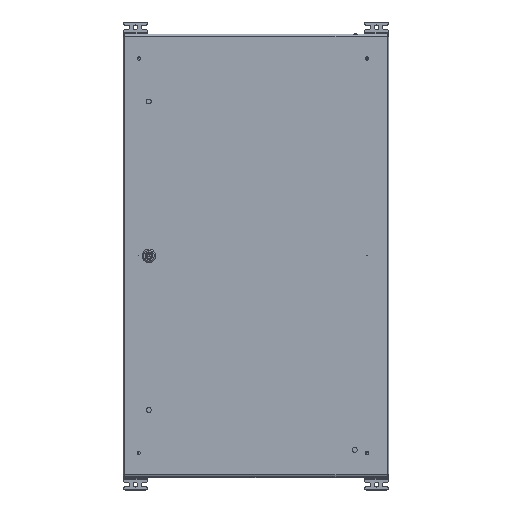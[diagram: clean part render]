
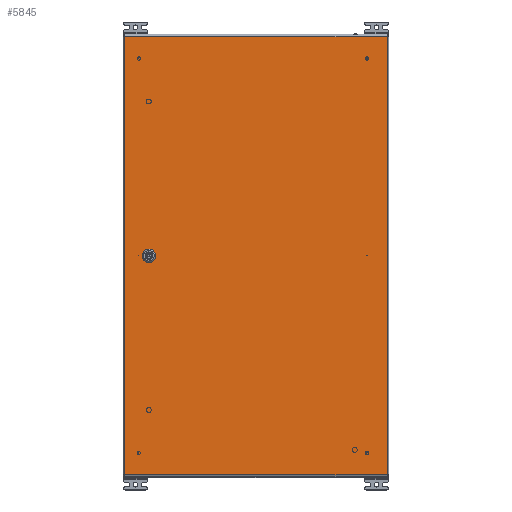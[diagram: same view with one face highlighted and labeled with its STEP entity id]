
A CAD part, top view. The second image highlights one B-rep face of the part: STEP entity #5845.
In plain terms, the highlighted planar face has unit normal (0, 0, 1).
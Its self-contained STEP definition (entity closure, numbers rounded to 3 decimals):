
#5845=ADVANCED_FACE('',(#14710,#14712),#14714,.T.);
#14710=FACE_BOUND('',#14711,.T.);
#14711=EDGE_LOOP('',(#40577,#40578,#40579,#40580));
#14712=FACE_BOUND('',#14713,.T.);
#14713=EDGE_LOOP('',(#40581,#40582,#40583,#40584,#40585,#40586,#40587,#40588));
#14714=PLANE('',#14715);
#14715=AXIS2_PLACEMENT_3D('',#14716,#14717,#14718);
#14716=CARTESIAN_POINT('',(0.,0.,1.5));
#14717=DIRECTION('',(0.,0.,1.));
#14718=DIRECTION('',(1.,0.,0.));
#40577=ORIENTED_EDGE('',*,*,#45796,.T.);
#40578=ORIENTED_EDGE('',*,*,#45797,.T.);
#40579=ORIENTED_EDGE('',*,*,#45798,.T.);
#40580=ORIENTED_EDGE('',*,*,#45799,.T.);
#40581=ORIENTED_EDGE('',*,*,#45755,.T.);
#40582=ORIENTED_EDGE('',*,*,#45770,.T.);
#40583=ORIENTED_EDGE('',*,*,#45768,.T.);
#40584=ORIENTED_EDGE('',*,*,#45766,.T.);
#40585=ORIENTED_EDGE('',*,*,#45764,.T.);
#40586=ORIENTED_EDGE('',*,*,#45762,.T.);
#40587=ORIENTED_EDGE('',*,*,#45760,.T.);
#40588=ORIENTED_EDGE('',*,*,#45758,.T.);
#45755=EDGE_CURVE('',#49740,#49741,#49742,.F.);
#45758=EDGE_CURVE('',#49745,#49740,#49746,.F.);
#45760=EDGE_CURVE('',#49748,#49745,#49749,.F.);
#45762=EDGE_CURVE('',#49751,#49748,#49752,.F.);
#45764=EDGE_CURVE('',#49754,#49751,#49755,.F.);
#45766=EDGE_CURVE('',#49757,#49754,#49758,.F.);
#45768=EDGE_CURVE('',#49760,#49757,#49761,.F.);
#45770=EDGE_CURVE('',#49741,#49760,#49763,.F.);
#45796=EDGE_CURVE('',#49804,#49805,#49806,.T.);
#45797=EDGE_CURVE('',#49805,#49807,#49808,.T.);
#45798=EDGE_CURVE('',#49807,#49809,#49810,.T.);
#45799=EDGE_CURVE('',#49809,#49804,#49811,.T.);
#49740=VERTEX_POINT('',#59377);
#49741=VERTEX_POINT('',#59378);
#49742=LINE('',#59379,#59380);
#49745=VERTEX_POINT('',#59388);
#49746=CIRCLE('',#59389,11.25);
#49748=VERTEX_POINT('',#59396);
#49749=LINE('',#59397,#59398);
#49751=VERTEX_POINT('',#59403);
#49752=CIRCLE('',#59404,11.25);
#49754=VERTEX_POINT('',#59411);
#49755=LINE('',#59412,#59413);
#49757=VERTEX_POINT('',#59418);
#49758=CIRCLE('',#59419,11.25);
#49760=VERTEX_POINT('',#59426);
#49761=LINE('',#59427,#59428);
#49763=CIRCLE('',#59433,11.25);
#49804=VERTEX_POINT('',#59534);
#49805=VERTEX_POINT('',#59535);
#49806=LINE('',#59536,#59537);
#49807=VERTEX_POINT('',#59539);
#49808=LINE('',#59540,#59541);
#49809=VERTEX_POINT('',#59543);
#49810=LINE('',#59544,#59545);
#49811=LINE('',#59547,#59548);
#59377=CARTESIAN_POINT('',(-489.545,-64.6,1.5));
#59378=CARTESIAN_POINT('',(-499.455,-64.6,1.5));
#59379=CARTESIAN_POINT('',(-499.455,-64.6,1.5));
#59380=VECTOR('',#59381,1.);
#59381=DIRECTION('',(1.,0.,0.));
#59388=CARTESIAN_POINT('',(-484.4,-59.455,1.5));
#59389=AXIS2_PLACEMENT_3D('',#59390,#59391,#59392);
#59390=CARTESIAN_POINT('',(-494.5,-54.5,1.5));
#59391=DIRECTION('',(0.,0.,1.));
#59392=DIRECTION('',(0.44,-0.898,0.));
#59396=CARTESIAN_POINT('',(-484.4,-49.545,1.5));
#59397=CARTESIAN_POINT('',(-484.4,-59.455,1.5));
#59398=VECTOR('',#59399,1.);
#59399=DIRECTION('',(0.,1.,0.));
#59403=CARTESIAN_POINT('',(-489.545,-44.4,1.5));
#59404=AXIS2_PLACEMENT_3D('',#59405,#59406,#59407);
#59405=CARTESIAN_POINT('',(-494.5,-54.5,1.5));
#59406=DIRECTION('',(0.,0.,1.));
#59407=DIRECTION('',(0.898,0.44,0.));
#59411=CARTESIAN_POINT('',(-499.455,-44.4,1.5));
#59412=CARTESIAN_POINT('',(-489.545,-44.4,1.5));
#59413=VECTOR('',#59414,1.);
#59414=DIRECTION('',(-1.,0.,0.));
#59418=CARTESIAN_POINT('',(-504.6,-49.545,1.5));
#59419=AXIS2_PLACEMENT_3D('',#59420,#59421,#59422);
#59420=CARTESIAN_POINT('',(-494.5,-54.5,1.5));
#59421=DIRECTION('',(0.,0.,1.));
#59422=DIRECTION('',(-0.44,0.898,0.));
#59426=CARTESIAN_POINT('',(-504.6,-59.455,1.5));
#59427=CARTESIAN_POINT('',(-504.6,-49.545,1.5));
#59428=VECTOR('',#59429,1.);
#59429=DIRECTION('',(0.,-1.,0.));
#59433=AXIS2_PLACEMENT_3D('',#59434,#59435,#59436);
#59434=CARTESIAN_POINT('',(-494.5,-54.5,1.5));
#59435=DIRECTION('',(0.,0.,1.));
#59436=DIRECTION('',(-0.898,-0.44,0.));
#59534=CARTESIAN_POINT('',(0.,-592.,1.5));
#59535=CARTESIAN_POINT('',(0.,0.,1.5));
#59536=CARTESIAN_POINT('',(0.,-592.,1.5));
#59537=VECTOR('',#59538,1.);
#59538=DIRECTION('',(0.,1.,0.));
#59539=CARTESIAN_POINT('',(-989.,0.,1.5));
#59540=CARTESIAN_POINT('',(0.,0.,1.5));
#59541=VECTOR('',#59542,1.);
#59542=DIRECTION('',(-1.,0.,0.));
#59543=CARTESIAN_POINT('',(-989.,-592.,1.5));
#59544=CARTESIAN_POINT('',(-989.,0.,1.5));
#59545=VECTOR('',#59546,1.);
#59546=DIRECTION('',(0.,-1.,0.));
#59547=CARTESIAN_POINT('',(-989.,-592.,1.5));
#59548=VECTOR('',#59549,1.);
#59549=DIRECTION('',(1.,0.,0.));
